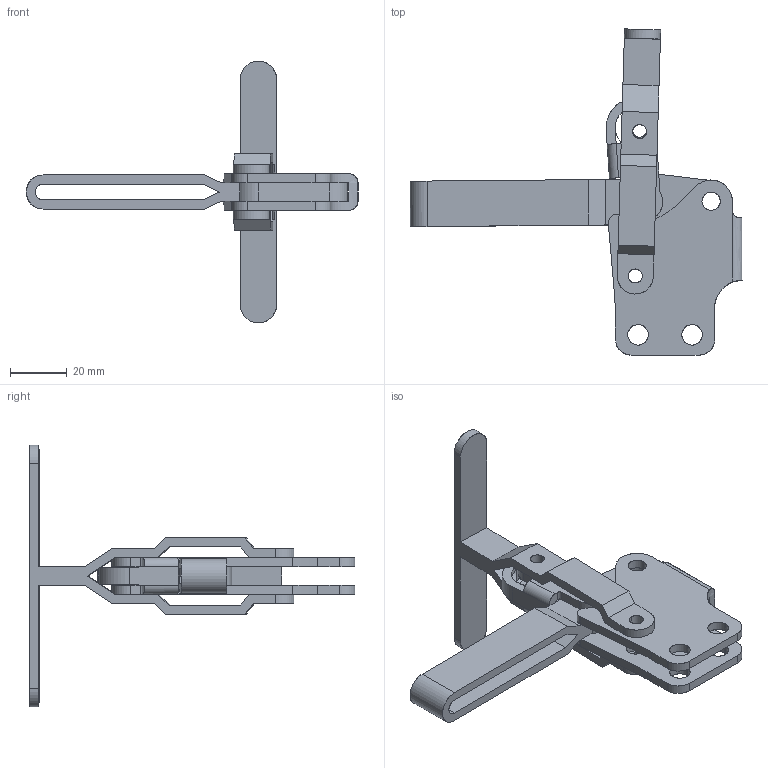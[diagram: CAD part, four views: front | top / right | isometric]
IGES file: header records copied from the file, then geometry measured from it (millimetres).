
Start section: SolidWorks IGES file using analytic representation for surfaces
Global section: file name: D:\GH Files\GH-SW-FILES\GH1\GH-12135,12137,12136\12136\GH-12136.IGS; native system: SolidWorks 2006 by SolidWorks Corporation; preprocessor: SolidWorks 2006 by SolidWorks Corporation; author: Administrator; date: 060824.170128; units: millimetre
Bounding box: 116.72 x 114.59 x 92.1 mm (x, y, z)
Surface area: 29300.3 mm2 (no closed solid volume)
Topology: 0 solids, 0 shells, 173 faces, 2891 edges, 2891 vertices
Faces by surface type: revolution 89, bspline 84
